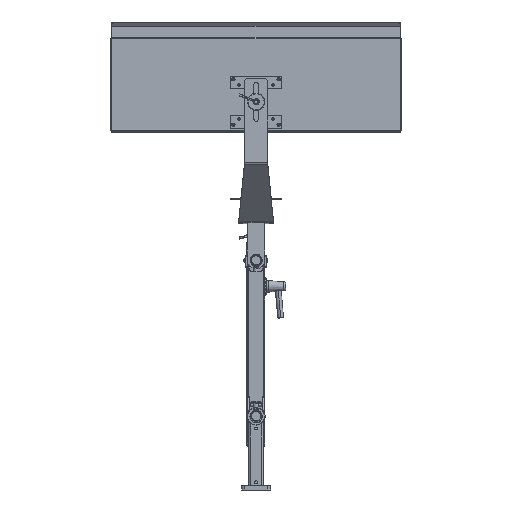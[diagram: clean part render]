
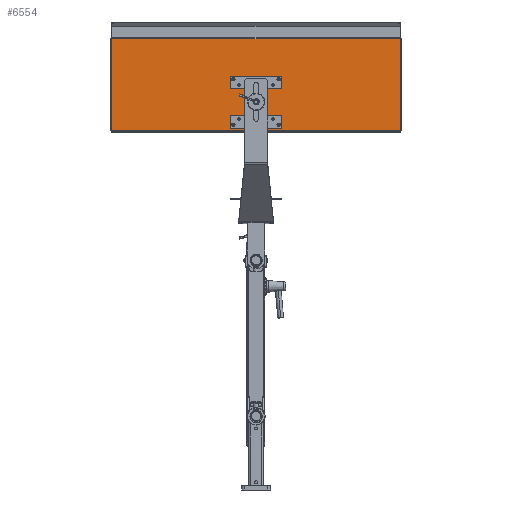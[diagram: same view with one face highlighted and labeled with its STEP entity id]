
A CAD part, front view. The second image highlights one B-rep face of the part: STEP entity #6554.
In plain terms, the highlighted planar face has unit normal (0, -1, 0.008) as drawn and (0, -1, 0) by its records, which use the part's own axes.
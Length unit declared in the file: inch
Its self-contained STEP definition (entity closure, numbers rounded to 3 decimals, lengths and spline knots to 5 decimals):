
#2707 = CARTESIAN_POINT ( 'NONE',  ( 1.9685, -0.09, -3.4685 ) ) ;
#2762 = DIRECTION ( 'NONE',  ( 0., 0., -1. ) ) ;
#4410 = CARTESIAN_POINT ( 'NONE',  ( 12.5, -0.09, 3.968 ) ) ;
#4862 = AXIS2_PLACEMENT_3D ( 'NONE', #95735, #58326, #50619 ) ;
#5420 = LINE ( 'NONE', #4410, #56227 ) ;
#5610 = CARTESIAN_POINT ( 'NONE',  ( 1.9685, -0.09, 0.37346 ) ) ;
#6136 = EDGE_CURVE ( 'NONE', #58212, #58126, #8117, .T. ) ;
#6387 = DIRECTION ( 'NONE',  ( 0., 0., -1. ) ) ;
#6554 = ADVANCED_FACE ( 'NONE', ( #56584, #80614, #25825, #32010, #34035 ), #23770, .T. ) ;
#7360 = CARTESIAN_POINT ( 'NONE',  ( 12.5, -0.09, 3.968 ) ) ;
#7393 = CARTESIAN_POINT ( 'NONE',  ( 1.9685, -0.09, -3.56354 ) ) ;
#7578 = CIRCLE ( 'NONE', #99247, 0.09504 ) ;
#7808 = EDGE_CURVE ( 'NONE', #58126, #58212, #65535, .T. ) ;
#7960 = CARTESIAN_POINT ( 'NONE',  ( -12.5, -0.09, -4. ) ) ;
#8110 = CARTESIAN_POINT ( 'NONE',  ( -12.5, -0.09, -4. ) ) ;
#8117 = CIRCLE ( 'NONE', #4862, 0.09504 ) ;
#8215 = EDGE_CURVE ( 'NONE', #23933, #88918, #83527, .T. ) ;
#8708 = CARTESIAN_POINT ( 'NONE',  ( -1.9685, -0.09, 0.56354 ) ) ;
#9851 = CARTESIAN_POINT ( 'NONE',  ( 1.9685, -0.09, 0.4685 ) ) ;
#9916 = AXIS2_PLACEMENT_3D ( 'NONE', #91431, #91937, #6387 ) ;
#10804 = AXIS2_PLACEMENT_3D ( 'NONE', #23331, #24352, #79149 ) ;
#11276 = DIRECTION ( 'NONE',  ( 0., 0., -1. ) ) ;
#11451 = EDGE_LOOP ( 'NONE', ( #59719, #37300 ) ) ;
#11625 = ORIENTED_EDGE ( 'NONE', *, *, #14531, .T. ) ;
#11722 = ORIENTED_EDGE ( 'NONE', *, *, #7808, .F. ) ;
#12372 = VERTEX_POINT ( 'NONE', #44439 ) ;
#14123 = VERTEX_POINT ( 'NONE', #71565 ) ;
#14531 = EDGE_CURVE ( 'NONE', #41124, #14123, #5420, .T. ) ;
#15278 = CIRCLE ( 'NONE', #46331, 0.09504 ) ;
#17041 = DIRECTION ( 'NONE',  ( 0., 0., -1. ) ) ;
#17278 = VERTEX_POINT ( 'NONE', #7393 ) ;
#19294 = AXIS2_PLACEMENT_3D ( 'NONE', #2707, #54968, #33484 ) ;
#20491 = DIRECTION ( 'NONE',  ( 0., -1., 0. ) ) ;
#20871 = ORIENTED_EDGE ( 'NONE', *, *, #8215, .F. ) ;
#21157 = EDGE_LOOP ( 'NONE', ( #93976, #11625, #35188, #30871 ) ) ;
#23331 = CARTESIAN_POINT ( 'NONE',  ( 1.9685, -0.09, 0.4685 ) ) ;
#23770 = PLANE ( 'NONE',  #50698 ) ;
#23933 = VERTEX_POINT ( 'NONE', #36743 ) ;
#24001 = EDGE_CURVE ( 'NONE', #60987, #14123, #46909, .T. ) ;
#24352 = DIRECTION ( 'NONE',  ( 0., -1., 0. ) ) ;
#25825 = FACE_BOUND ( 'NONE', #26487, .T. ) ;
#26148 = CARTESIAN_POINT ( 'NONE',  ( 12.5, -0.09, -4. ) ) ;
#26487 = EDGE_LOOP ( 'NONE', ( #28363, #66495 ) ) ;
#28327 = DIRECTION ( 'NONE',  ( 0., -1., 0. ) ) ;
#28363 = ORIENTED_EDGE ( 'NONE', *, *, #98300, .F. ) ;
#30871 = ORIENTED_EDGE ( 'NONE', *, *, #76081, .F. ) ;
#32010 = FACE_BOUND ( 'NONE', #68627, .T. ) ;
#33128 = VECTOR ( 'NONE', #78159, 39.37008 ) ;
#33484 = DIRECTION ( 'NONE',  ( 0., 0., -1. ) ) ;
#34035 = FACE_OUTER_BOUND ( 'NONE', #21157, .T. ) ;
#34272 = VECTOR ( 'NONE', #11276, 39.37008 ) ;
#35188 = ORIENTED_EDGE ( 'NONE', *, *, #24001, .F. ) ;
#35379 = AXIS2_PLACEMENT_3D ( 'NONE', #9851, #87194, #17041 ) ;
#36743 = CARTESIAN_POINT ( 'NONE',  ( -1.9685, -0.09, 0.37346 ) ) ;
#37226 = LINE ( 'NONE', #44360, #95851 ) ;
#37300 = ORIENTED_EDGE ( 'NONE', *, *, #66940, .F. ) ;
#39373 = AXIS2_PLACEMENT_3D ( 'NONE', #66216, #28327, #2762 ) ;
#41124 = VERTEX_POINT ( 'NONE', #7360 ) ;
#43948 = EDGE_CURVE ( 'NONE', #88918, #23933, #7578, .T. ) ;
#44360 = CARTESIAN_POINT ( 'NONE',  ( 12.5, -0.09, -4. ) ) ;
#44439 = CARTESIAN_POINT ( 'NONE',  ( 1.9685, -0.09, -3.37346 ) ) ;
#45988 = VERTEX_POINT ( 'NONE', #82834 ) ;
#46331 = AXIS2_PLACEMENT_3D ( 'NONE', #85097, #93758, #57300 ) ;
#46909 = LINE ( 'NONE', #7960, #33128 ) ;
#47165 = EDGE_CURVE ( 'NONE', #12372, #17278, #69953, .T. ) ;
#47394 = ORIENTED_EDGE ( 'NONE', *, *, #43948, .F. ) ;
#47573 = CARTESIAN_POINT ( 'NONE',  ( -1.9685, -0.09, -3.37346 ) ) ;
#50619 = DIRECTION ( 'NONE',  ( 0., 0., -1. ) ) ;
#50698 = AXIS2_PLACEMENT_3D ( 'NONE', #63218, #72920, #96004 ) ;
#51744 = DIRECTION ( 'NONE',  ( 0., 0., -1. ) ) ;
#54297 = VERTEX_POINT ( 'NONE', #85603 ) ;
#54968 = DIRECTION ( 'NONE',  ( 0., -1., 0. ) ) ;
#56227 = VECTOR ( 'NONE', #67909, 39.37008 ) ;
#56582 = EDGE_CURVE ( 'NONE', #41124, #45988, #59406, .T. ) ;
#56584 = FACE_BOUND ( 'NONE', #84322, .T. ) ;
#57300 = DIRECTION ( 'NONE',  ( 0., 0., -1. ) ) ;
#58126 = VERTEX_POINT ( 'NONE', #47573 ) ;
#58212 = VERTEX_POINT ( 'NONE', #97234 ) ;
#58326 = DIRECTION ( 'NONE',  ( 0., -1., 0. ) ) ;
#59406 = LINE ( 'NONE', #26148, #34272 ) ;
#59719 = ORIENTED_EDGE ( 'NONE', *, *, #47165, .F. ) ;
#60444 = CARTESIAN_POINT ( 'NONE',  ( -1.9685, -0.09, 0.4685 ) ) ;
#60987 = VERTEX_POINT ( 'NONE', #8110 ) ;
#62877 = ORIENTED_EDGE ( 'NONE', *, *, #6136, .F. ) ;
#63218 = CARTESIAN_POINT ( 'NONE',  ( 0., -0.09, 0. ) ) ;
#63234 = CIRCLE ( 'NONE', #35379, 0.09504 ) ;
#65535 = CIRCLE ( 'NONE', #9916, 0.09504 ) ;
#66216 = CARTESIAN_POINT ( 'NONE',  ( -1.9685, -0.09, 0.4685 ) ) ;
#66495 = ORIENTED_EDGE ( 'NONE', *, *, #76313, .F. ) ;
#66940 = EDGE_CURVE ( 'NONE', #17278, #12372, #15278, .T. ) ;
#67909 = DIRECTION ( 'NONE',  ( -1., 0., 0. ) ) ;
#68627 = EDGE_LOOP ( 'NONE', ( #47394, #20871 ) ) ;
#69922 = VERTEX_POINT ( 'NONE', #5610 ) ;
#69953 = CIRCLE ( 'NONE', #19294, 0.09504 ) ;
#71565 = CARTESIAN_POINT ( 'NONE',  ( -12.5, -0.09, 3.968 ) ) ;
#72920 = DIRECTION ( 'NONE',  ( 0., -1., 0. ) ) ;
#76081 = EDGE_CURVE ( 'NONE', #45988, #60987, #37226, .T. ) ;
#76313 = EDGE_CURVE ( 'NONE', #69922, #54297, #95932, .T. ) ;
#78159 = DIRECTION ( 'NONE',  ( 0., 0., 1. ) ) ;
#79149 = DIRECTION ( 'NONE',  ( 0., 0., -1. ) ) ;
#80614 = FACE_BOUND ( 'NONE', #11451, .T. ) ;
#82834 = CARTESIAN_POINT ( 'NONE',  ( 12.5, -0.09, -4. ) ) ;
#83527 = CIRCLE ( 'NONE', #39373, 0.09504 ) ;
#83814 = DIRECTION ( 'NONE',  ( -1., 0., 0. ) ) ;
#84322 = EDGE_LOOP ( 'NONE', ( #11722, #62877 ) ) ;
#85097 = CARTESIAN_POINT ( 'NONE',  ( 1.9685, -0.09, -3.4685 ) ) ;
#85603 = CARTESIAN_POINT ( 'NONE',  ( 1.9685, -0.09, 0.56354 ) ) ;
#87194 = DIRECTION ( 'NONE',  ( 0., -1., 0. ) ) ;
#88918 = VERTEX_POINT ( 'NONE', #8708 ) ;
#91431 = CARTESIAN_POINT ( 'NONE',  ( -1.9685, -0.09, -3.4685 ) ) ;
#91937 = DIRECTION ( 'NONE',  ( 0., -1., 0. ) ) ;
#93758 = DIRECTION ( 'NONE',  ( 0., -1., 0. ) ) ;
#93976 = ORIENTED_EDGE ( 'NONE', *, *, #56582, .F. ) ;
#95735 = CARTESIAN_POINT ( 'NONE',  ( -1.9685, -0.09, -3.4685 ) ) ;
#95851 = VECTOR ( 'NONE', #83814, 39.37008 ) ;
#95932 = CIRCLE ( 'NONE', #10804, 0.09504 ) ;
#96004 = DIRECTION ( 'NONE',  ( 0., 0., -1. ) ) ;
#97234 = CARTESIAN_POINT ( 'NONE',  ( -1.9685, -0.09, -3.56354 ) ) ;
#98300 = EDGE_CURVE ( 'NONE', #54297, #69922, #63234, .T. ) ;
#99247 = AXIS2_PLACEMENT_3D ( 'NONE', #60444, #20491, #51744 ) ;
